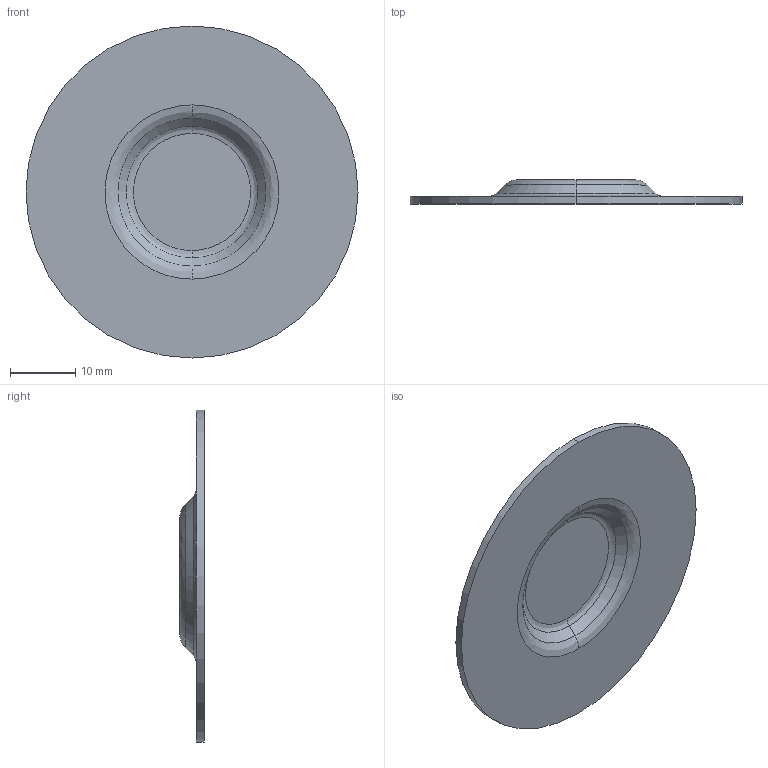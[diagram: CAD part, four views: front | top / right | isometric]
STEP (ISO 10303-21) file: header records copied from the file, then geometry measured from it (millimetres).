
FILE_DESCRIPTION (( 'STEP AP214' ), '1' );
FILE_NAME ('SO 1193781-10.STEP', '2024-09-16T15:31:24', ( '' ), ( '' ), 'SwSTEP 2.0', 'SolidWorks 2024', '' );
FILE_SCHEMA (( 'AUTOMOTIVE_DESIGN' ));
Length unit declared in the file: inch
Products named in the file (1): SO 1193781-10
Bounding box: 50.8 x 3.73 x 50.8 mm (x, y, z)
Volume: 2491.8 mm3; surface area: 4364.7 mm2
Topology: 1 solids, 1 shells, 18 faces, 34 edges, 20 vertices
Faces by surface type: bspline 8, cone 4, plane 4, cylinder 2
Entity records: 743 total; most frequent: CARTESIAN_POINT 389, DIRECTION 68, ORIENTED_EDGE 68, EDGE_CURVE 34, AXIS2_PLACEMENT_3D 31, EDGE_LOOP 20, VERTEX_POINT 20, CIRCLE 20
